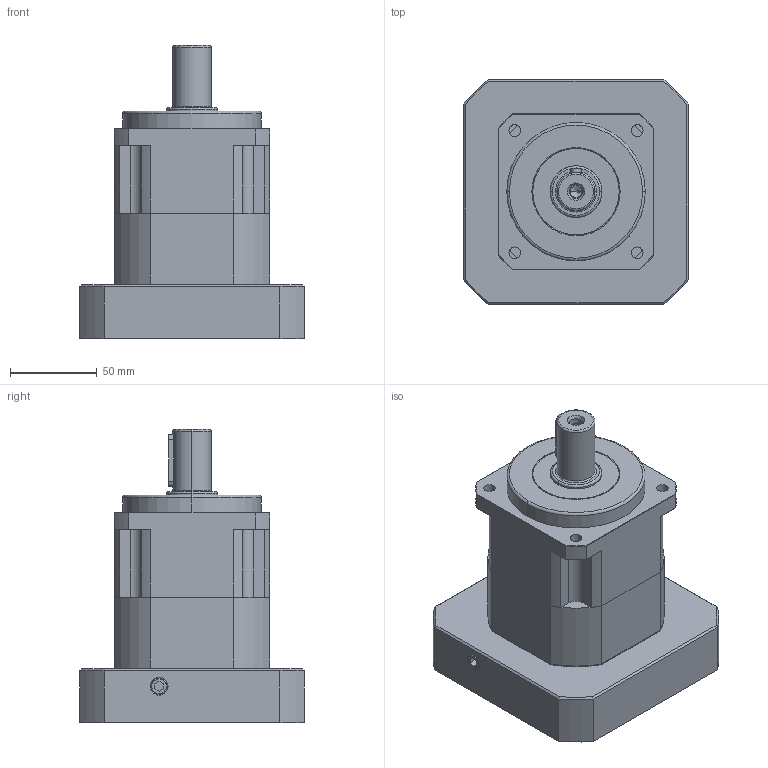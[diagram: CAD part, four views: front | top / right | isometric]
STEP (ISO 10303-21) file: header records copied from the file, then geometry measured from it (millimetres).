
FILE_DESCRIPTION (( 'STEP AP203' ), '1' );
FILE_NAME ('SB90-1-110M8-4.STEP', '2011-07-11T09:01:39', ( '1' ), ( '' ), 'SwSTEP 2.0', 'SolidWorks 2011', '' );
FILE_SCHEMA (( 'CONFIG_CONTROL_DESIGN' ));
Length unit declared in the file: millimetre
Products named in the file (1): SB90-1-110M8-4
Bounding box: 130.01 x 130.01 x 169.5 mm (x, y, z)
Volume: 860321.7 mm3; surface area: 164538.8 mm2
Topology: 16 solids, 16 shells, 580 faces, 1384 edges, 855 vertices
Faces by surface type: plane 251, cylinder 179, cone 112, torus 29, bspline 9
Entity records: 17698 total; most frequent: CARTESIAN_POINT 4051, DIRECTION 2937, ORIENTED_EDGE 2716, EDGE_CURVE 1358, AXIS2_PLACEMENT_3D 1107, VERTEX_POINT 855, LINE 723, VECTOR 723
